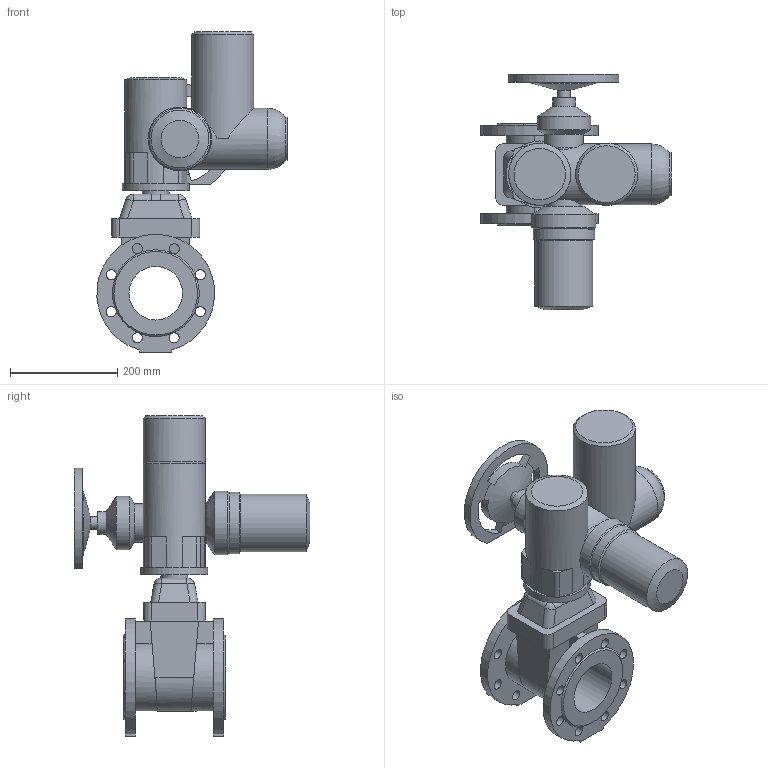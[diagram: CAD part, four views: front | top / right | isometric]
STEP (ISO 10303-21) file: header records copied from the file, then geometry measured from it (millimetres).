
FILE_DESCRIPTION(('STEP AP203'), '1');
FILE_NAME('青溻桄赅 47GVA DN100 PN10_PN16+MT903.A07', '', ('UNSPECIFIED'), ('UNSPECIFIED'), 'ASCON STEP Converter 1.6', 'ASCON Math Kernel', '');
FILE_SCHEMA(('CONFIG_CONTROL_DESIGN'));
Length unit declared in the file: millimetre
Bounding box: 354.66 x 440 x 598 mm (x, y, z)
Volume: 12041746 mm3; surface area: 767247.1 mm2
Topology: 2 solids, 2 shells, 206 faces, 564 edges, 359 vertices
Faces by surface type: plane 100, cylinder 87, cone 11, bspline 7, torus 1
Full cylindrical faces by diameter (mm): 8.5 x4, 12 x4, 19 x16, 20 x1, 24 x1, 42 x1, 50 x1, 66 x1, 70 x2, 72 x1, 80 x1, 100 x2, 108 x1, 114 x1, 115 x1, 116 x2, 119 x1, 125 x1
Entity records: 10472 total; most frequent: CARTESIAN_POINT 3699, DIRECTION 1050, ORIENTED_EDGE 1008, EDGE_CURVE 504, AXIS2_PLACEMENT_3D 412, VERTEX_POINT 359, EDGE_LOOP 311, FACE_BOUND 228
